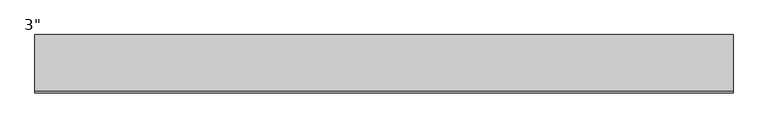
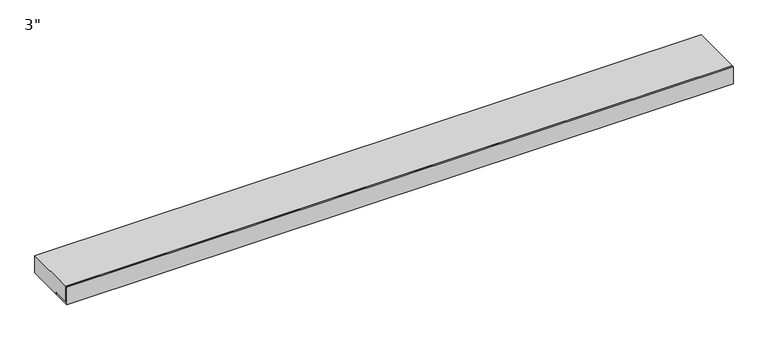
"""IFC4 building model written with IfcOpenShell, lengths in millimetres: proxy geometry."""

from ifc_helpers import new_model, si_unit, frame, origin, place, context, project, spatial, polyline, outline, extrude, faceted_brep, source, transform, mapped, element, save


def proxy_cc65e3d2(model_context):
    return source(origin(), model_context, "Body", "SolidModel", [
        faceted_brep([(1219.2, 101.6, 9.525), (1219.2, 101.6, 76.2), (1219.2, -95.25, 76.2), (1219.2, -95.25, 15.875), (1219.2, -34.925, 15.875), (1219.2, -34.925, 9.525), (-1219.2, -34.925, 9.525), (-1219.2, -34.925, 15.875), (-1219.2, -95.25, 15.875), (-1219.2, -95.25, 76.2), (-1219.2, 101.6, 76.2), (-1219.2, 101.6, 9.525), (1193.8, 101.6, 9.525), (1143.0, 101.6, 9.525), (1092.2, 101.6, 9.525), (1041.4, 101.6, 9.525), (990.6, 101.6, 9.525), (939.8, 101.6, 9.525), (889.0, 101.6, 9.525), (838.2, 101.6, 9.525), (787.4, 101.6, 9.525), (736.6, 101.6, 9.525), (685.8, 101.6, 9.525), (635.0, 101.6, 9.525), (584.2, 101.6, 9.525), (533.4, 101.6, 9.525), (482.6, 101.6, 9.525), (431.8, 101.6, 9.525), (381.0, 101.6, 9.525), (330.2, 101.6, 9.525), (279.4, 101.6, 9.525), (228.6, 101.6, 9.525), (177.8, 101.6, 9.525), (127.0, 101.6, 9.525), (76.2, 101.6, 9.525), (25.4, 101.6, 9.525), (-25.4, 101.6, 9.525), (-76.2, 101.6, 9.525), (-127.0, 101.6, 9.525), (-177.8, 101.6, 9.525), (-228.6, 101.6, 9.525), (-279.4, 101.6, 9.525), (-330.2, 101.6, 9.525), (-381.0, 101.6, 9.525), (-431.8, 101.6, 9.525), (-482.6, 101.6, 9.525), (-533.4, 101.6, 9.525), (-584.2, 101.6, 9.525), (-635.0, 101.6, 9.525), (-685.8, 101.6, 9.525), (-736.6, 101.6, 9.525), (-787.4, 101.6, 9.525), (-838.2, 101.6, 9.525), (-889.0, 101.6, 9.525), (-939.8, 101.6, 9.525), (-990.6, 101.6, 9.525), (-1041.4, 101.6, 9.525), (-1092.2, 101.6, 9.525), (-1143.0, 101.6, 9.525), (-1193.8, 101.6, 9.525), (-1092.2, 92.075, 0.0), (-1041.4, 92.075, 0.0), (-1041.4, -25.4, 0.0), (-1092.2, -25.4, 0.0), (-990.6, 92.075, 0.0), (-939.8, 92.075, 0.0), (-939.8, -25.4, 0.0), (-990.6, -25.4, 0.0), (-889.0, 92.075, 0.0), (-838.2, 92.075, 0.0), (-838.2, -25.4, 0.0), (-889.0, -25.4, 0.0), (-787.4, 92.075, 0.0), (-736.6, 92.075, 0.0), (-736.6, -25.4, 0.0), (-787.4, -25.4, 0.0), (-685.8, 92.075, 0.0), (-635.0, 92.075, 0.0), (-635.0, -25.4, 0.0), (-685.8, -25.4, 0.0), (-584.2, 92.075, 0.0), (-533.4, 92.075, 0.0), (-533.4, -25.4, 0.0), (-584.2, -25.4, 0.0), (-482.6, 92.075, 0.0), (-431.8, 92.075, 0.0), (-431.8, -25.4, 0.0), (-482.6, -25.4, 0.0), (-381.0, 92.075, 0.0), (-330.2, 92.075, 0.0), (-330.2, -25.4, 0.0), (-381.0, -25.4, 0.0), (-279.4, 92.075, 0.0), (-228.6, 92.075, 0.0), (-228.6, -25.4, 0.0), (-279.4, -25.4, 0.0), (-177.8, 92.075, 0.0), (-127.0, 92.075, 0.0), (-127.0, -25.4, 0.0), (-177.8, -25.4, 0.0), (-76.2, 92.075, 0.0), (-25.4, 92.075, 0.0), (-25.4, -25.4, 0.0), (-76.2, -25.4, 0.0), (25.4, 92.075, 0.0), (76.2, 92.075, 0.0), (76.2, -25.4, 0.0), (25.4, -25.4, 0.0), (127.0, 92.075, 0.0), (177.8, 92.075, 0.0), (177.8, -25.4, 0.0), (127.0, -25.4, 0.0), (228.6, 92.075, 0.0), (279.4, 92.075, 0.0), (279.4, -25.4, 0.0), (228.6, -25.4, 0.0), (330.2, 92.075, 0.0), (381.0, 92.075, 0.0), (381.0, -25.4, 0.0), (330.2, -25.4, 0.0), (431.8, 92.075, 0.0), (482.6, 92.075, 0.0), (482.6, -25.4, 0.0), (431.8, -25.4, 0.0), (533.4, 92.075, 0.0), (584.2, 92.075, 0.0), (584.2, -25.4, 0.0), (533.4, -25.4, 0.0), (635.0, 92.075, 0.0), (685.8, 92.075, 0.0), (685.8, -25.4, 0.0), (635.0, -25.4, 0.0), (736.6, 92.075, 0.0), (787.4, 92.075, 0.0), (787.4, -25.4, 0.0), (736.6, -25.4, 0.0), (838.2, 92.075, 0.0), (889.0, 92.075, 0.0), (889.0, -25.4, 0.0), (838.2, -25.4, 0.0), (939.8, 92.075, 0.0), (990.6, 92.075, 0.0), (990.6, -25.4, 0.0), (939.8, -25.4, 0.0), (1041.4, 92.075, 0.0), (1092.2, 92.075, 0.0), (1092.2, -25.4, 0.0), (1041.4, -25.4, 0.0), (1143.0, 92.075, 0.0), (1193.8, 92.075, 0.0), (1193.8, -25.4, 0.0), (1143.0, -25.4, 0.0), (-1193.8, 92.075, 0.0), (-1143.0, 92.075, 0.0), (-1143.0, -25.4, 0.0), (-1193.8, -25.4, 0.0), (-1193.8, -34.925, 9.525), (-1143.0, -34.925, 9.525), (-1092.2, -34.925, 9.525), (-1041.4, -34.925, 9.525), (-990.6, -34.925, 9.525), (-939.8, -34.925, 9.525), (-889.0, -34.925, 9.525), (-838.2, -34.925, 9.525), (-787.4, -34.925, 9.525), (-736.6, -34.925, 9.525), (-685.8, -34.925, 9.525), (-635.0, -34.925, 9.525), (-584.2, -34.925, 9.525), (-533.4, -34.925, 9.525), (-482.6, -34.925, 9.525), (-431.8, -34.925, 9.525), (-381.0, -34.925, 9.525), (-330.2, -34.925, 9.525), (-279.4, -34.925, 9.525), (-228.6, -34.925, 9.525), (-177.8, -34.925, 9.525), (-127.0, -34.925, 9.525), (-76.2, -34.925, 9.525), (-25.4, -34.925, 9.525), (25.4, -34.925, 9.525), (76.2, -34.925, 9.525), (127.0, -34.925, 9.525), (177.8, -34.925, 9.525), (228.6, -34.925, 9.525), (279.4, -34.925, 9.525), (330.2, -34.925, 9.525), (381.0, -34.925, 9.525), (431.8, -34.925, 9.525), (482.6, -34.925, 9.525), (533.4, -34.925, 9.525), (584.2, -34.925, 9.525), (635.0, -34.925, 9.525), (685.8, -34.925, 9.525), (736.6, -34.925, 9.525), (787.4, -34.925, 9.525), (838.2, -34.925, 9.525), (889.0, -34.925, 9.525), (939.8, -34.925, 9.525), (990.6, -34.925, 9.525), (1041.4, -34.925, 9.525), (1092.2, -34.925, 9.525), (1143.0, -34.925, 9.525), (1193.8, -34.925, 9.525)], [[[0, 1, 2, 3, 4, 5]], [[6, 7, 8, 9, 10, 11]], [[4, 3, 8, 7]], [[3, 2, 9, 8]], [[2, 1, 10, 9]], [[1, 0, 12, 13, 14, 15, 16, 17, 18, 19, 20, 21, 22, 23, 24, 25, 26, 27, 28, 29, 30, 31, 32, 33, 34, 35, 36, 37, 38, 39, 40, 41, 42, 43, 44, 45, 46, 47, 48, 49, 50, 51, 52, 53, 54, 55, 56, 57, 58, 59, 11, 10]], [[60, 61, 62, 63]], [[64, 65, 66, 67]], [[68, 69, 70, 71]], [[72, 73, 74, 75]], [[76, 77, 78, 79]], [[80, 81, 82, 83]], [[84, 85, 86, 87]], [[88, 89, 90, 91]], [[92, 93, 94, 95]], [[96, 97, 98, 99]], [[100, 101, 102, 103]], [[104, 105, 106, 107]], [[108, 109, 110, 111]], [[112, 113, 114, 115]], [[116, 117, 118, 119]], [[120, 121, 122, 123]], [[124, 125, 126, 127]], [[128, 129, 130, 131]], [[132, 133, 134, 135]], [[136, 137, 138, 139]], [[140, 141, 142, 143]], [[144, 145, 146, 147]], [[148, 149, 150, 151]], [[152, 153, 154, 155]], [[5, 4, 7, 6, 156, 157, 158, 159, 160, 161, 162, 163, 164, 165, 166, 167, 168, 169, 170, 171, 172, 173, 174, 175, 176, 177, 178, 179, 180, 181, 182, 183, 184, 185, 186, 187, 188, 189, 190, 191, 192, 193, 194, 195, 196, 197, 198, 199, 200, 201, 202, 203]], [[61, 60, 57, 56]], [[65, 64, 55, 54]], [[69, 68, 53, 52]], [[73, 72, 51, 50]], [[77, 76, 49, 48]], [[81, 80, 47, 46]], [[85, 84, 45, 44]], [[89, 88, 43, 42]], [[93, 92, 41, 40]], [[97, 96, 39, 38]], [[101, 100, 37, 36]], [[105, 104, 35, 34]], [[109, 108, 33, 32]], [[113, 112, 31, 30]], [[117, 116, 29, 28]], [[121, 120, 27, 26]], [[125, 124, 25, 24]], [[129, 128, 23, 22]], [[133, 132, 21, 20]], [[137, 136, 19, 18]], [[141, 140, 17, 16]], [[145, 144, 15, 14]], [[149, 148, 13, 12]], [[153, 152, 59, 58]], [[157, 156, 155, 154]], [[159, 158, 63, 62]], [[161, 160, 67, 66]], [[163, 162, 71, 70]], [[165, 164, 75, 74]], [[167, 166, 79, 78]], [[169, 168, 83, 82]], [[171, 170, 87, 86]], [[173, 172, 91, 90]], [[175, 174, 95, 94]], [[177, 176, 99, 98]], [[179, 178, 103, 102]], [[181, 180, 107, 106]], [[183, 182, 111, 110]], [[185, 184, 115, 114]], [[187, 186, 119, 118]], [[189, 188, 123, 122]], [[191, 190, 127, 126]], [[193, 192, 131, 130]], [[195, 194, 135, 134]], [[197, 196, 139, 138]], [[199, 198, 143, 142]], [[201, 200, 147, 146]], [[203, 202, 151, 150]], [[158, 57, 60, 63]], [[57, 158, 157, 58]], [[58, 157, 154, 153]], [[160, 55, 64, 67]], [[55, 160, 159, 56]], [[56, 159, 62, 61]], [[162, 53, 68, 71]], [[53, 162, 161, 54]], [[54, 161, 66, 65]], [[164, 51, 72, 75]], [[51, 164, 163, 52]], [[52, 163, 70, 69]], [[166, 49, 76, 79]], [[49, 166, 165, 50]], [[50, 165, 74, 73]], [[168, 47, 80, 83]], [[47, 168, 167, 48]], [[48, 167, 78, 77]], [[170, 45, 84, 87]], [[45, 170, 169, 46]], [[46, 169, 82, 81]], [[172, 43, 88, 91]], [[43, 172, 171, 44]], [[44, 171, 86, 85]], [[174, 41, 92, 95]], [[41, 174, 173, 42]], [[42, 173, 90, 89]], [[176, 39, 96, 99]], [[39, 176, 175, 40]], [[40, 175, 94, 93]], [[178, 37, 100, 103]], [[37, 178, 177, 38]], [[38, 177, 98, 97]], [[180, 35, 104, 107]], [[35, 180, 179, 36]], [[36, 179, 102, 101]], [[182, 33, 108, 111]], [[33, 182, 181, 34]], [[34, 181, 106, 105]], [[184, 31, 112, 115]], [[31, 184, 183, 32]], [[32, 183, 110, 109]], [[186, 29, 116, 119]], [[29, 186, 185, 30]], [[30, 185, 114, 113]], [[188, 27, 120, 123]], [[27, 188, 187, 28]], [[28, 187, 118, 117]], [[190, 25, 124, 127]], [[25, 190, 189, 26]], [[26, 189, 122, 121]], [[192, 23, 128, 131]], [[23, 192, 191, 24]], [[24, 191, 126, 125]], [[194, 21, 132, 135]], [[21, 194, 193, 22]], [[22, 193, 130, 129]], [[196, 19, 136, 139]], [[19, 196, 195, 20]], [[20, 195, 134, 133]], [[198, 17, 140, 143]], [[17, 198, 197, 18]], [[18, 197, 138, 137]], [[200, 15, 144, 147]], [[15, 200, 199, 16]], [[16, 199, 142, 141]], [[202, 13, 148, 151]], [[13, 202, 201, 14]], [[14, 201, 146, 145]], [[203, 12, 0, 5]], [[12, 203, 150, 149]], [[59, 156, 6, 11]], [[156, 59, 152, 155]]]),
        extrude(outline(polyline([(-101.6, 76.2), (-95.25, 76.2), (-95.25, 15.875), (-34.925, 15.875), (-34.925, 9.525), (-101.6, 9.525), (-101.6, 76.2)])), frame((-1219.2, 0.0, 0.0), z_axis=(1.0, 0.0, 0.0), x_axis=(0.0, 1.0, 0.0)), (0.0, 0.0, 1.0), 2438.4),
    ])


if __name__ == "__main__":
    model = new_model("IFC4")
    model_context = context("Model", 3, world=origin())
    ifc_project = project(units=[si_unit("LENGTHUNIT", "METRE", prefix="MILLI")], contexts=[model_context])
    site = spatial("IfcSite", under=ifc_project)
    building = spatial("IfcBuilding", under=site)
    placement = place(None, origin())
    proxy_shape = proxy_cc65e3d2(model_context)
    element("IfcBuildingElementProxy", 1, Name="Durabond Generic Model Quantum Select 5-0 Vent Board : 3\"", ObjectType="Durabond Generic Model Quantum Select 5-0 Vent Board : 3\"", at=placement, inside=building, context=model_context, shape_type="MappedRepresentation", body=[
        mapped(proxy_shape, transform((0.0, 0.0, 0.0), x_axis=(1.0, 0.0, 0.0), y_axis=(0.0, 1.0, 0.0), z_axis=(0.0, 0.0, 1.0))),
    ])
    save(model, "model.ifc")
